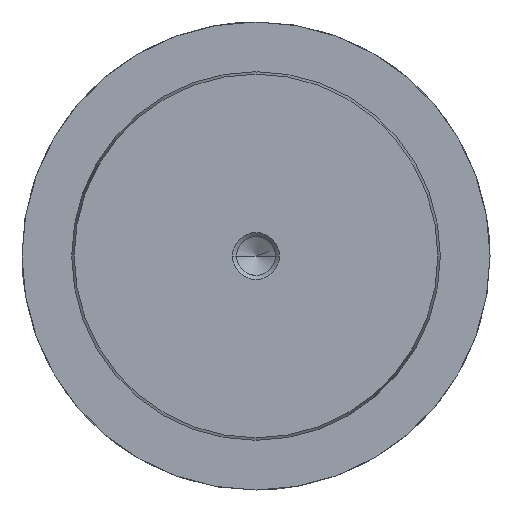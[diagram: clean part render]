
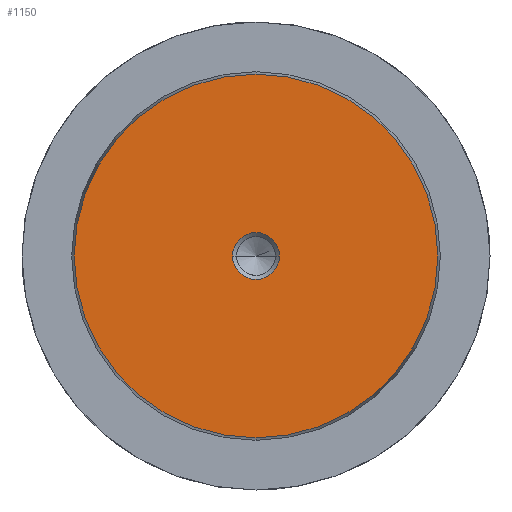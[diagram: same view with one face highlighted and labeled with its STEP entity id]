
A CAD part, left-side view. The second image highlights one B-rep face of the part: STEP entity #1150.
In plain terms, the highlighted planar face has unit normal (-1, 0, 0).
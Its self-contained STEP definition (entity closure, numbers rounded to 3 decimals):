
#1064=CARTESIAN_POINT('Vertex',(0.,0.,-31.078)) ;
#1067=CARTESIAN_POINT('Axis2P3D Location',(0.,0.,0.)) ;
#1071=CARTESIAN_POINT('Vertex',(0.,31.078,0.)) ;
#1074=CARTESIAN_POINT('Axis2P3D Location',(0.,0.,0.)) ;
#1078=CARTESIAN_POINT('Vertex',(0.,0.,31.078)) ;
#1100=CARTESIAN_POINT('Axis2P3D Location',(0.,0.,0.)) ;
#1104=CARTESIAN_POINT('Vertex',(0.,-31.078,0.)) ;
#1107=CARTESIAN_POINT('Axis2P3D Location',(0.,0.,0.)) ;
#1121=CARTESIAN_POINT('Axis2P3D Location',(0.,0.,0.)) ;
#1132=CARTESIAN_POINT('Axis2P3D Location',(0.,0.,0.)) ;
#1136=CARTESIAN_POINT('Vertex',(0.,4.,0.)) ;
#1138=CARTESIAN_POINT('Vertex',(0.,-4.,0.)) ;
#1141=CARTESIAN_POINT('Axis2P3D Location',(0.,0.,0.)) ;
#1068=DIRECTION('Axis2P3D Direction',(1.,0.,-0.)) ;
#1075=DIRECTION('Axis2P3D Direction',(1.,0.,-0.)) ;
#1101=DIRECTION('Axis2P3D Direction',(1.,0.,-0.)) ;
#1108=DIRECTION('Axis2P3D Direction',(1.,0.,-0.)) ;
#1122=DIRECTION('Axis2P3D Direction',(1.,0.,-0.)) ;
#1123=DIRECTION('Axis2P3D XDirection',(-0.,0.,-1.)) ;
#1133=DIRECTION('Axis2P3D Direction',(1.,0.,-0.)) ;
#1142=DIRECTION('Axis2P3D Direction',(1.,0.,-0.)) ;
#1069=AXIS2_PLACEMENT_3D('Circle Axis2P3D',#1067,#1068,$) ;
#1076=AXIS2_PLACEMENT_3D('Circle Axis2P3D',#1074,#1075,$) ;
#1102=AXIS2_PLACEMENT_3D('Circle Axis2P3D',#1100,#1101,$) ;
#1109=AXIS2_PLACEMENT_3D('Circle Axis2P3D',#1107,#1108,$) ;
#1124=AXIS2_PLACEMENT_3D('Plane Axis2P3D',#1121,#1122,#1123) ;
#1134=AXIS2_PLACEMENT_3D('Circle Axis2P3D',#1132,#1133,$) ;
#1143=AXIS2_PLACEMENT_3D('Circle Axis2P3D',#1141,#1142,$) ;
#1127=ORIENTED_EDGE('',*,*,#1073,.F.) ;
#1128=ORIENTED_EDGE('',*,*,#1111,.F.) ;
#1129=ORIENTED_EDGE('',*,*,#1106,.F.) ;
#1130=ORIENTED_EDGE('',*,*,#1080,.F.) ;
#1147=ORIENTED_EDGE('',*,*,#1140,.T.) ;
#1148=ORIENTED_EDGE('',*,*,#1145,.T.) ;
#1149=FACE_BOUND('',#1146,.T.) ;
#1150=ADVANCED_FACE('718-63x180',(#1131,#1149),#1125,.F.) ;
#1070=CIRCLE('generated circle',#1069,31.078) ;
#1077=CIRCLE('generated circle',#1076,31.078) ;
#1103=CIRCLE('generated circle',#1102,31.078) ;
#1110=CIRCLE('generated circle',#1109,31.078) ;
#1135=CIRCLE('generated circle',#1134,4.) ;
#1144=CIRCLE('generated circle',#1143,4.) ;
#1073=EDGE_CURVE('',#1065,#1072,#1070,.T.) ;
#1080=EDGE_CURVE('',#1072,#1079,#1077,.T.) ;
#1106=EDGE_CURVE('',#1079,#1105,#1103,.T.) ;
#1111=EDGE_CURVE('',#1105,#1065,#1110,.T.) ;
#1140=EDGE_CURVE('',#1137,#1139,#1135,.T.) ;
#1145=EDGE_CURVE('',#1139,#1137,#1144,.T.) ;
#1126=EDGE_LOOP('',(#1127,#1128,#1129,#1130)) ;
#1146=EDGE_LOOP('',(#1147,#1148)) ;
#1131=FACE_OUTER_BOUND('',#1126,.T.) ;
#1125=PLANE('Plane',#1124) ;
#1065=VERTEX_POINT('',#1064) ;
#1072=VERTEX_POINT('',#1071) ;
#1079=VERTEX_POINT('',#1078) ;
#1105=VERTEX_POINT('',#1104) ;
#1137=VERTEX_POINT('',#1136) ;
#1139=VERTEX_POINT('',#1138) ;
